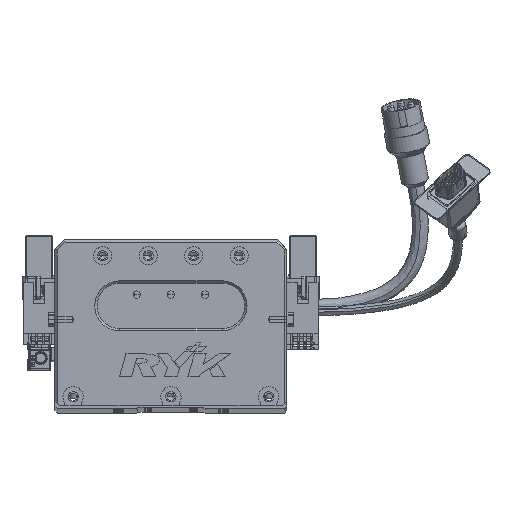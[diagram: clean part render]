
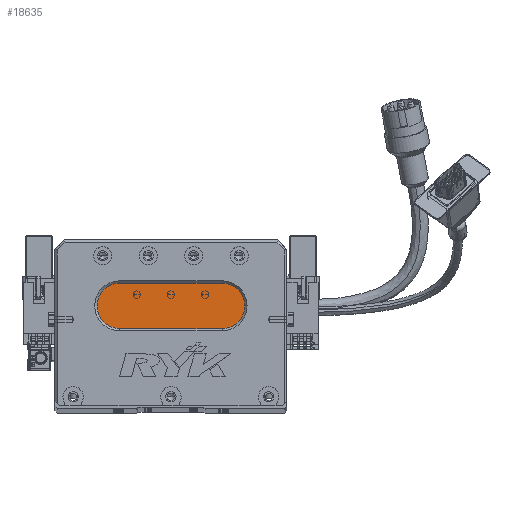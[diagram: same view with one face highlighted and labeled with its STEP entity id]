
A CAD part, top view. The second image highlights one B-rep face of the part: STEP entity #18635.
In plain terms, the highlighted planar face has unit normal (0, 0, 1) as drawn and (0, 0, -1) by its records, which use the part's own axes.
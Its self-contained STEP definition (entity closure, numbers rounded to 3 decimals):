
#1973 = AXIS2_PLACEMENT_3D ( 'NONE', #8463, #3047, #42440 ) ;
#3047 = DIRECTION ( 'NONE',  ( 0., 0., -1. ) ) ;
#4064 = VECTOR ( 'NONE', #36010, 1000. ) ;
#4290 = CARTESIAN_POINT ( 'NONE',  ( 28.5, 44., 13. ) ) ;
#4763 = DIRECTION ( 'NONE',  ( 0., 0., -1. ) ) ;
#6918 = ORIENTED_EDGE ( 'NONE', *, *, #39751, .T. ) ;
#8036 = EDGE_CURVE ( 'NONE', #59167, #53936, #18163, .T. ) ;
#8248 = EDGE_CURVE ( 'NONE', #53936, #62155, #42795, .T. ) ;
#8353 = VERTEX_POINT ( 'NONE', #13084 ) ;
#8463 = CARTESIAN_POINT ( 'NONE',  ( 73.5, 44., 13. ) ) ;
#9929 = DIRECTION ( 'NONE',  ( -1., 0., 0. ) ) ;
#12045 = AXIS2_PLACEMENT_3D ( 'NONE', #4290, #4763, #9929 ) ;
#12458 = CARTESIAN_POINT ( 'NONE',  ( 73.5, 44., 13. ) ) ;
#12950 = DIRECTION ( 'NONE',  ( 0., 0., -1. ) ) ;
#13084 = CARTESIAN_POINT ( 'NONE',  ( 73.5, 34., 13. ) ) ;
#13242 = EDGE_CURVE ( 'NONE', #8353, #59167, #19045, .T. ) ;
#14525 = CARTESIAN_POINT ( 'NONE',  ( 73.5, 54., 13. ) ) ;
#15932 = VERTEX_POINT ( 'NONE', #50638 ) ;
#16054 = EDGE_LOOP ( 'NONE', ( #60560, #24178, #47027, #62184, #6918 ) ) ;
#17779 = CARTESIAN_POINT ( 'NONE',  ( 28.5, 44., 13. ) ) ;
#18163 = CIRCLE ( 'NONE', #12045, 10. ) ;
#18635 = ADVANCED_FACE ( 'NONE', ( #50922 ), #29923, .T. ) ;
#19045 = LINE ( 'NONE', #52671, #4064 ) ;
#21559 = AXIS2_PLACEMENT_3D ( 'NONE', #12458, #12950, #57195 ) ;
#21567 = CARTESIAN_POINT ( 'NONE',  ( 28.5, 54., 13. ) ) ;
#23748 = CARTESIAN_POINT ( 'NONE',  ( 18.5, 44., 13. ) ) ;
#24178 = ORIENTED_EDGE ( 'NONE', *, *, #13242, .T. ) ;
#29923 = PLANE ( 'NONE',  #21559 ) ;
#31777 = VECTOR ( 'NONE', #48676, 1000. ) ;
#35199 = EDGE_CURVE ( 'NONE', #15932, #8353, #45535, .T. ) ;
#36010 = DIRECTION ( 'NONE',  ( -1., 0., 0. ) ) ;
#39751 = EDGE_CURVE ( 'NONE', #62155, #15932, #43216, .T. ) ;
#42440 = DIRECTION ( 'NONE',  ( -1., 0., 0. ) ) ;
#42795 = CIRCLE ( 'NONE', #44617, 10. ) ;
#43216 = LINE ( 'NONE', #14525, #31777 ) ;
#44617 = AXIS2_PLACEMENT_3D ( 'NONE', #17779, #68901, #46039 ) ;
#45535 = CIRCLE ( 'NONE', #1973, 10. ) ;
#46039 = DIRECTION ( 'NONE',  ( -1., 0., 0. ) ) ;
#47027 = ORIENTED_EDGE ( 'NONE', *, *, #8036, .T. ) ;
#48676 = DIRECTION ( 'NONE',  ( 1., 0., 0. ) ) ;
#50638 = CARTESIAN_POINT ( 'NONE',  ( 73.5, 54., 13. ) ) ;
#50922 = FACE_OUTER_BOUND ( 'NONE', #16054, .T. ) ;
#52671 = CARTESIAN_POINT ( 'NONE',  ( 73.5, 34., 13. ) ) ;
#53936 = VERTEX_POINT ( 'NONE', #23748 ) ;
#57195 = DIRECTION ( 'NONE',  ( -1., 0., 0. ) ) ;
#57437 = CARTESIAN_POINT ( 'NONE',  ( 28.5, 34., 13. ) ) ;
#59167 = VERTEX_POINT ( 'NONE', #57437 ) ;
#60560 = ORIENTED_EDGE ( 'NONE', *, *, #35199, .T. ) ;
#62155 = VERTEX_POINT ( 'NONE', #21567 ) ;
#62184 = ORIENTED_EDGE ( 'NONE', *, *, #8248, .T. ) ;
#68901 = DIRECTION ( 'NONE',  ( 0., 0., -1. ) ) ;
